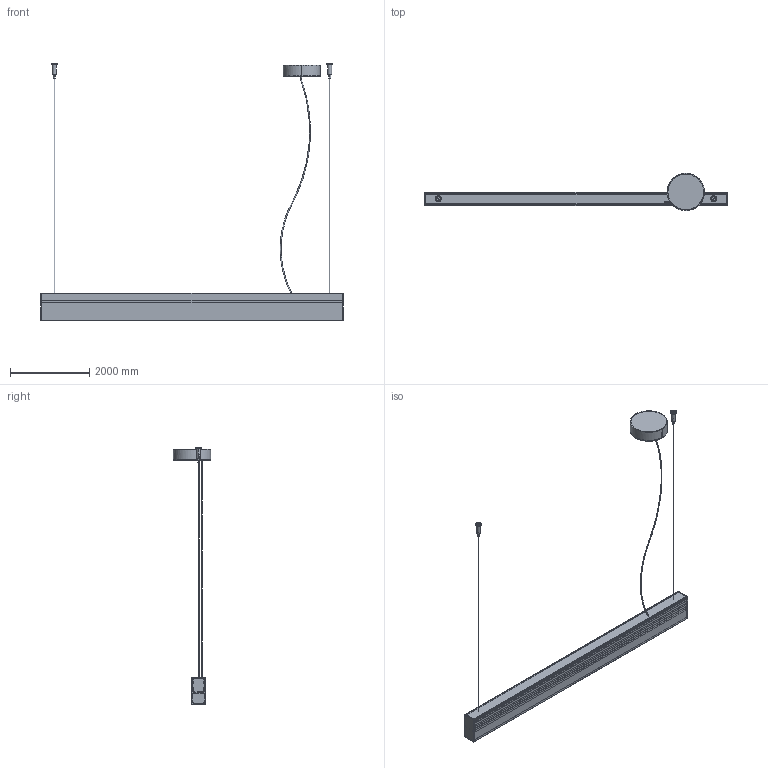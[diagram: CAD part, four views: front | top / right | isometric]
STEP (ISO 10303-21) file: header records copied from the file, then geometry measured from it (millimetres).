
FILE_DESCRIPTION(/* description */ (''),/* implementation_level */ '2;1');
FILE_NAME(/* name */ '1541',/* time_stamp */ '2022-01-18T16:39:44+01:00',/* author */ (''),/* organization */ (''),/* preprocessor_version */ 'ST-DEVELOPER v16.5',/* originating_system */ '',/* authorisation */ '');
FILE_SCHEMA (('CONFIG_CONTROL_DESIGN'));
Length unit declared in the file: centimetre
Products named in the file (1): Document
Bounding box: 7625 x 940 x 6473.96 mm (x, y, z)
Volume: 431777594.5 mm3; surface area: 51088946.6 mm2
Topology: 15 solids, 16 shells, 290 faces, 795 edges, 532 vertices
Faces by surface type: plane 174, cylinder 94, bspline 22
Entity records: 9181 total; most frequent: CARTESIAN_POINT 3841, ORIENTED_EDGE 1587, EDGE_CURVE 794, B_SPLINE_CURVE_WITH_KNOTS 576, VERTEX_POINT 530, EDGE_LOOP 313, ADVANCED_FACE 290, FACE_OUTER_BOUND 290
